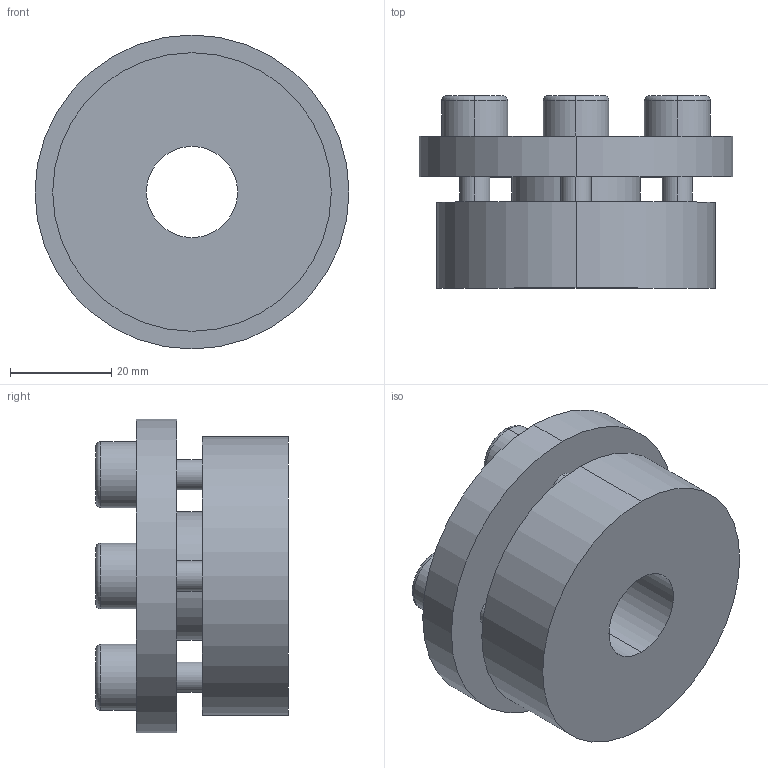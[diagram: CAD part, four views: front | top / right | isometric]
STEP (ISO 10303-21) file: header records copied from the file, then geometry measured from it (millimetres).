
FILE_DESCRIPTION (( 'STEP AP203' ), '1' );
FILE_NAME ('PL-H4 18-55.STEP', '2021-10-23T01:18:08', ( '' ), ( '' ), 'SwSTEP 2.0', 'SolidWorks 2018', '' );
FILE_SCHEMA (( 'CONFIG_CONTROL_DESIGN' ));
Length unit declared in the file: millimetre
Products named in the file (1): PL-H4 18-55
Bounding box: 62 x 38 x 62 mm (x, y, z)
Volume: 63721.4 mm3; surface area: 17576.9 mm2
Topology: 1 solids, 1 shells, 68 faces, 160 edges, 104 vertices
Faces by surface type: plane 36, cylinder 24, torus 8
Entity records: 2061 total; most frequent: DIRECTION 362, CARTESIAN_POINT 333, ORIENTED_EDGE 320, EDGE_CURVE 160, AXIS2_PLACEMENT_3D 133, VERTEX_POINT 104, VECTOR 96, LINE 96
